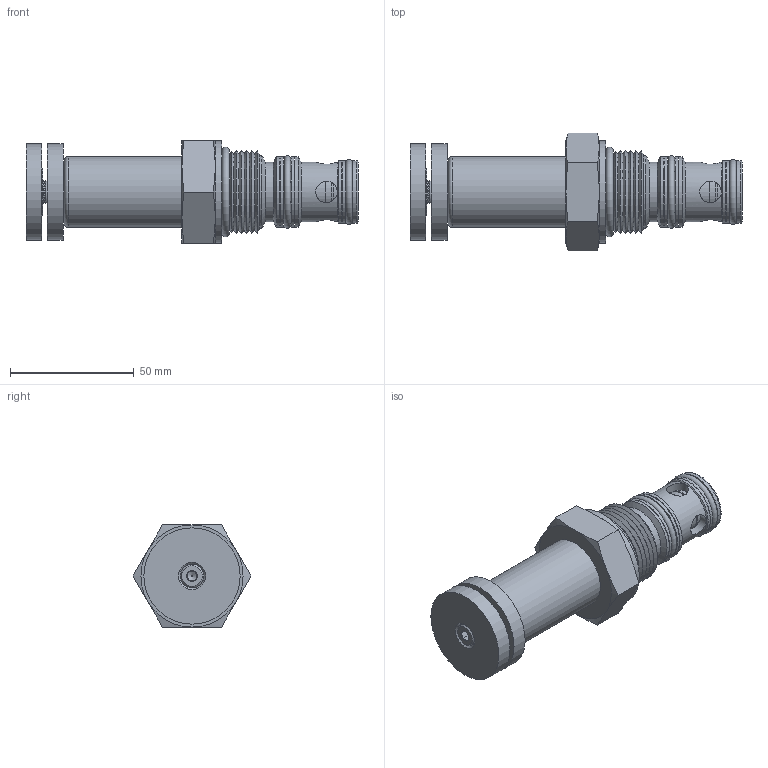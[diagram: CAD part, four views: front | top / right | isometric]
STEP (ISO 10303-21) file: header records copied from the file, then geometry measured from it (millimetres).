
FILE_DESCRIPTION((''),'2;1');
FILE_NAME('Q:\Delta CADD Insertion Codes\3D Solid models\Mechanical Valves\DWG\SLPCE0K.stp','2012-12-06T13:21:12',('Dan'),(''),'Autodesk Inventor 2012','Autodesk Inventor 2012','');
FILE_SCHEMA(('AUTOMOTIVE_DESIGN { 1 0 10303 214 1 1 1 1 }'));
Length unit declared in the file: inch
Products named in the file (10): Assembly15; Part190; Part192; Part194; Part196; Part198; Part200; Part202; Part204; Part206
Assembly tree (9 placements, depth 2):
  Assembly15
    Part190
    Part192
    Part194
    Part196
    Part198
    Part200
    Part202
    Part204
    Part206
Bounding box: 134.11 x 47.66 x 41.27 mm (x, y, z)
Volume: 99464.9 mm3; surface area: 28018.8 mm2
Topology: 9 solids, 9 shells, 158 faces, 319 edges, 187 vertices
Faces by surface type: cone 68, plane 49, cylinder 36, torus 5
Full cylindrical faces by diameter (mm): 0.762 x1, 3.962 x1, 8.128 x1, 8.738 x4, 9.525 x2, 16.459 x2, 17.462 x2, 17.479 x1, 19.05 x2, 20.93 x2, 24.105 x4, 24.13 x1, 25.248 x1, 25.349 x2, 28.423 x2, 28.524 x2, 28.702 x1, 29.21 x1, 30.328 x1, 38.862 x2, 41.275 x1
Entity records: 4158 total; most frequent: CARTESIAN_POINT 987, DIRECTION 659, ORIENTED_EDGE 456, AXIS2_PLACEMENT_3D 317, EDGE_LOOP 271, EDGE_CURVE 228, VERTEX_POINT 177, FACE_OUTER_BOUND 158
